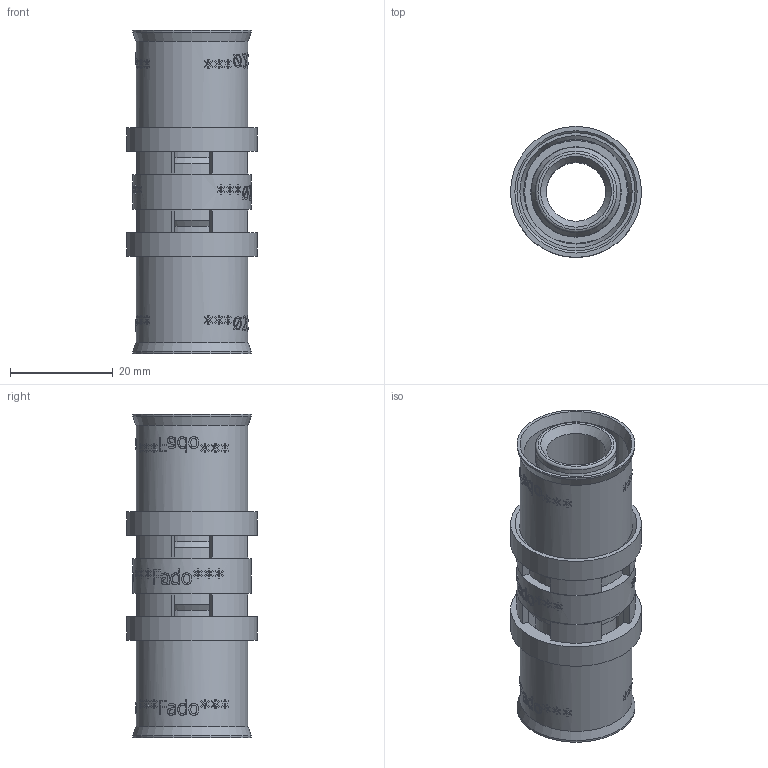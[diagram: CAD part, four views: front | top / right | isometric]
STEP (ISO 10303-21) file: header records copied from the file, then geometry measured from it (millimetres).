
FILE_DESCRIPTION(/* description */ (''),/* implementation_level */ '2;1');
FILE_NAME(/* name */ 'C:\Users\Doom\Desktop\Фадотех\Пресс\HDM03 Coupler 31.03.2020\HDM03.stp',/* time_stamp */ '2022-08-05T23:28:18+03:00',/* author */ ('Doom'),/* organization */ (''),/* preprocessor_version */ 'ST-DEVELOPER v18',/* originating_system */ 'Autodesk Inventor 2020',/* authorisation */ '');
FILE_SCHEMA (('AUTOMOTIVE_DESIGN { 1 0 10303 214 3 1 1 }'));
Products named in the file (6): HDM01 Coupler 31.03.2020; 16 Model 18.12.2019; 16 Model 18.12.2019_1; 16 Model 18.12.2019_2; 20 LDPE Seats 27.02.2020_ЗЕРКАЛО; 20 SUS Ferrules 27.02.2020_ЗЕРКАЛО
Assembly tree (5 placements, depth 2):
  HDM01 Coupler 31.03.2020
    16 Model 18.12.2019
    16 Model 18.12.2019_1
    16 Model 18.12.2019_2
    20 LDPE Seats 27.02.2020_ЗЕРКАЛО
    20 SUS Ferrules 27.02.2020_ЗЕРКАЛО
Bounding box: 25.5 x 25.5 x 62.95 mm (x, y, z)
Volume: 10453.1 mm3; surface area: 16571.5 mm2
Topology: 5 solids, 5 shells, 1412 faces, 3960 edges, 2668 vertices
Faces by surface type: bspline 924, plane 290, cylinder 160, cone 28, torus 10
Full cylindrical faces by diameter (mm): 11.5 x1, 13.5 x4, 14.3 x2, 15.8 x16, 16.4 x2, 16.6 x2, 17.5 x2, 17.6 x2, 20.4 x4, 21.8 x2, 22 x2, 23 x5, 23.5 x2, 25.5 x2
Entity records: 62568 total; most frequent: CARTESIAN_POINT 31091, ORIENTED_EDGE 7920, EDGE_CURVE 3960, DIRECTION 3730, VERTEX_POINT 2668, B_SPLINE_CURVE_WITH_KNOTS 1848, EDGE_LOOP 1548, LINE 1492
